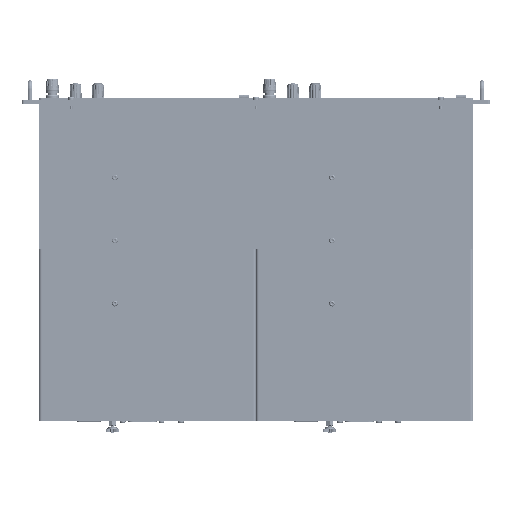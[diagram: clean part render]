
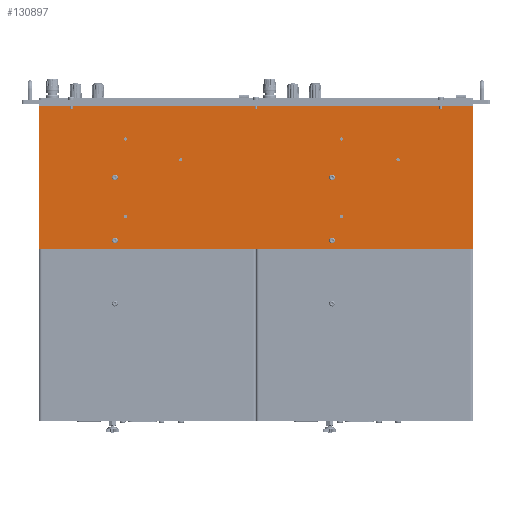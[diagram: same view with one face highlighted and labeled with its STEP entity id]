
A CAD part, left-side view. The second image highlights one B-rep face of the part: STEP entity #130897.
In plain terms, the highlighted planar face has unit normal (-1, 0, 0).
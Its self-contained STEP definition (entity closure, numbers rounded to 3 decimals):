
#5317=FACE_BOUND('',#45304,.T.);
#5318=FACE_BOUND('',#45305,.T.);
#5319=FACE_BOUND('',#45306,.T.);
#5320=FACE_BOUND('',#45307,.T.);
#5321=FACE_BOUND('',#45308,.T.);
#5322=FACE_BOUND('',#45309,.T.);
#5323=FACE_BOUND('',#45310,.T.);
#5324=FACE_BOUND('',#45311,.T.);
#5325=FACE_BOUND('',#45312,.T.);
#5326=FACE_BOUND('',#45313,.T.);
#14469=LINE('',#244231,#23891);
#14474=LINE('',#244241,#23896);
#14479=LINE('',#244274,#23901);
#14481=LINE('',#244280,#23903);
#23891=VECTOR('',#173593,10.);
#23896=VECTOR('',#173600,10.);
#23901=VECTOR('',#173633,10.);
#23903=VECTOR('',#173639,10.);
#28088=PLANE('',#142148);
#37222=FACE_OUTER_BOUND('',#45303,.T.);
#45303=EDGE_LOOP('',(#115616,#115617,#115618,#115619));
#45304=EDGE_LOOP('',(#115620));
#45305=EDGE_LOOP('',(#115621));
#45306=EDGE_LOOP('',(#115622));
#45307=EDGE_LOOP('',(#115623));
#45308=EDGE_LOOP('',(#115624,#115625));
#45309=EDGE_LOOP('',(#115626,#115627));
#45310=EDGE_LOOP('',(#115628,#115629));
#45311=EDGE_LOOP('',(#115630,#115631));
#45312=EDGE_LOOP('',(#115632,#115633));
#45313=EDGE_LOOP('',(#115634,#115635));
#50323=CIRCLE('',#141782,3.);
#50341=CIRCLE('',#141826,3.);
#50433=CIRCLE('',#142054,3.);
#50451=CIRCLE('',#142098,3.);
#50469=CIRCLE('',#142131,1.75);
#50470=CIRCLE('',#142132,1.75);
#50471=CIRCLE('',#142134,1.75);
#50472=CIRCLE('',#142135,1.75);
#50473=CIRCLE('',#142137,1.75);
#50474=CIRCLE('',#142138,1.75);
#50475=CIRCLE('',#142140,1.75);
#50476=CIRCLE('',#142141,1.75);
#50477=CIRCLE('',#142143,1.75);
#50478=CIRCLE('',#142144,1.75);
#50479=CIRCLE('',#142146,1.75);
#50480=CIRCLE('',#142147,1.75);
#61704=VERTEX_POINT('',#243226);
#61739=VERTEX_POINT('',#243369);
#61904=VERTEX_POINT('',#244079);
#61939=VERTEX_POINT('',#244222);
#61941=VERTEX_POINT('',#244229);
#61942=VERTEX_POINT('',#244230);
#61946=VERTEX_POINT('',#244239);
#61960=VERTEX_POINT('',#244272);
#61989=VERTEX_POINT('',#244351);
#61990=VERTEX_POINT('',#244352);
#61991=VERTEX_POINT('',#244357);
#61992=VERTEX_POINT('',#244358);
#61993=VERTEX_POINT('',#244363);
#61994=VERTEX_POINT('',#244364);
#61995=VERTEX_POINT('',#244369);
#61996=VERTEX_POINT('',#244370);
#61997=VERTEX_POINT('',#244375);
#61998=VERTEX_POINT('',#244376);
#61999=VERTEX_POINT('',#244381);
#62000=VERTEX_POINT('',#244382);
#79434=EDGE_CURVE('',#61704,#61704,#50323,.T.);
#79492=EDGE_CURVE('',#61739,#61739,#50341,.T.);
#79781=EDGE_CURVE('',#61904,#61904,#50433,.T.);
#79839=EDGE_CURVE('',#61939,#61939,#50451,.T.);
#79842=EDGE_CURVE('',#61941,#61942,#14469,.T.);
#79847=EDGE_CURVE('',#61946,#61941,#14474,.T.);
#79864=EDGE_CURVE('',#61942,#61960,#14479,.T.);
#79867=EDGE_CURVE('',#61946,#61960,#14481,.T.);
#79903=EDGE_CURVE('',#61989,#61990,#50469,.T.);
#79904=EDGE_CURVE('',#61990,#61989,#50470,.T.);
#79906=EDGE_CURVE('',#61991,#61992,#50471,.T.);
#79907=EDGE_CURVE('',#61992,#61991,#50472,.T.);
#79909=EDGE_CURVE('',#61993,#61994,#50473,.T.);
#79910=EDGE_CURVE('',#61994,#61993,#50474,.T.);
#79912=EDGE_CURVE('',#61995,#61996,#50475,.T.);
#79913=EDGE_CURVE('',#61996,#61995,#50476,.T.);
#79915=EDGE_CURVE('',#61997,#61998,#50477,.T.);
#79916=EDGE_CURVE('',#61998,#61997,#50478,.T.);
#79918=EDGE_CURVE('',#61999,#62000,#50479,.T.);
#79919=EDGE_CURVE('',#62000,#61999,#50480,.T.);
#115616=ORIENTED_EDGE('',*,*,#79867,.T.);
#115617=ORIENTED_EDGE('',*,*,#79864,.F.);
#115618=ORIENTED_EDGE('',*,*,#79842,.F.);
#115619=ORIENTED_EDGE('',*,*,#79847,.F.);
#115620=ORIENTED_EDGE('',*,*,#79434,.T.);
#115621=ORIENTED_EDGE('',*,*,#79492,.T.);
#115622=ORIENTED_EDGE('',*,*,#79781,.F.);
#115623=ORIENTED_EDGE('',*,*,#79839,.F.);
#115624=ORIENTED_EDGE('',*,*,#79918,.T.);
#115625=ORIENTED_EDGE('',*,*,#79919,.T.);
#115626=ORIENTED_EDGE('',*,*,#79915,.T.);
#115627=ORIENTED_EDGE('',*,*,#79916,.T.);
#115628=ORIENTED_EDGE('',*,*,#79912,.T.);
#115629=ORIENTED_EDGE('',*,*,#79913,.T.);
#115630=ORIENTED_EDGE('',*,*,#79909,.T.);
#115631=ORIENTED_EDGE('',*,*,#79910,.T.);
#115632=ORIENTED_EDGE('',*,*,#79906,.T.);
#115633=ORIENTED_EDGE('',*,*,#79907,.T.);
#115634=ORIENTED_EDGE('',*,*,#79903,.T.);
#115635=ORIENTED_EDGE('',*,*,#79904,.T.);
#130897=ADVANCED_FACE('',(#37222,#5317,#5318,#5319,#5320,#5321,#5322,#5323,
#5324,#5325,#5326),#28088,.T.);
#141782=AXIS2_PLACEMENT_3D('',#243227,#172759,#172760);
#141826=AXIS2_PLACEMENT_3D('',#243370,#172875,#172876);
#142054=AXIS2_PLACEMENT_3D('',#244080,#173468,#173469);
#142098=AXIS2_PLACEMENT_3D('',#244223,#173584,#173585);
#142131=AXIS2_PLACEMENT_3D('',#244353,#173696,#173697);
#142132=AXIS2_PLACEMENT_3D('',#244354,#173698,#173699);
#142134=AXIS2_PLACEMENT_3D('',#244359,#173703,#173704);
#142135=AXIS2_PLACEMENT_3D('',#244360,#173705,#173706);
#142137=AXIS2_PLACEMENT_3D('',#244365,#173710,#173711);
#142138=AXIS2_PLACEMENT_3D('',#244366,#173712,#173713);
#142140=AXIS2_PLACEMENT_3D('',#244371,#173717,#173718);
#142141=AXIS2_PLACEMENT_3D('',#244372,#173719,#173720);
#142143=AXIS2_PLACEMENT_3D('',#244377,#173724,#173725);
#142144=AXIS2_PLACEMENT_3D('',#244378,#173726,#173727);
#142146=AXIS2_PLACEMENT_3D('',#244383,#173731,#173732);
#142147=AXIS2_PLACEMENT_3D('',#244384,#173733,#173734);
#142148=AXIS2_PLACEMENT_3D('',#244386,#173736,#173737);
#172759=DIRECTION('center_axis',(1.,0.,0.));
#172760=DIRECTION('ref_axis',(0.,1.,0.));
#172875=DIRECTION('center_axis',(1.,0.,0.));
#172876=DIRECTION('ref_axis',(0.,1.,0.));
#173468=DIRECTION('center_axis',(-1.,0.,0.));
#173469=DIRECTION('ref_axis',(0.,1.,0.));
#173584=DIRECTION('center_axis',(-1.,0.,0.));
#173585=DIRECTION('ref_axis',(0.,1.,0.));
#173593=DIRECTION('',(0.,1.,0.));
#173600=DIRECTION('',(0.,0.,-1.));
#173633=DIRECTION('',(0.,0.,1.));
#173639=DIRECTION('',(0.,1.,0.));
#173696=DIRECTION('center_axis',(1.,0.,0.));
#173697=DIRECTION('ref_axis',(0.,1.,0.));
#173698=DIRECTION('center_axis',(1.,0.,0.));
#173699=DIRECTION('ref_axis',(0.,1.,0.));
#173703=DIRECTION('center_axis',(1.,0.,0.));
#173704=DIRECTION('ref_axis',(0.,1.,0.));
#173705=DIRECTION('center_axis',(1.,0.,0.));
#173706=DIRECTION('ref_axis',(0.,1.,0.));
#173710=DIRECTION('center_axis',(1.,0.,0.));
#173711=DIRECTION('ref_axis',(0.,1.,0.));
#173712=DIRECTION('center_axis',(1.,0.,0.));
#173713=DIRECTION('ref_axis',(0.,1.,0.));
#173717=DIRECTION('center_axis',(1.,0.,0.));
#173718=DIRECTION('ref_axis',(0.,1.,0.));
#173719=DIRECTION('center_axis',(1.,0.,0.));
#173720=DIRECTION('ref_axis',(0.,1.,0.));
#173724=DIRECTION('center_axis',(1.,0.,0.));
#173725=DIRECTION('ref_axis',(0.,1.,0.));
#173726=DIRECTION('center_axis',(1.,0.,0.));
#173727=DIRECTION('ref_axis',(0.,1.,0.));
#173731=DIRECTION('center_axis',(1.,0.,0.));
#173732=DIRECTION('ref_axis',(0.,1.,0.));
#173733=DIRECTION('center_axis',(1.,0.,0.));
#173734=DIRECTION('ref_axis',(0.,1.,0.));
#173736=DIRECTION('center_axis',(-1.,0.,0.));
#173737=DIRECTION('ref_axis',(0.,1.,0.));
#243226=CARTESIAN_POINT('',(-28.55,142.5,-141.25));
#243227=CARTESIAN_POINT('Origin',(-28.55,145.5,-141.25));
#243369=CARTESIAN_POINT('',(-28.55,142.5,-76.25));
#243370=CARTESIAN_POINT('Origin',(-28.55,145.5,-76.25));
#244079=CARTESIAN_POINT('',(-28.55,-81.5,-141.25));
#244080=CARTESIAN_POINT('Origin',(-28.55,-78.5,-141.25));
#244222=CARTESIAN_POINT('',(-28.55,-81.5,-76.25));
#244223=CARTESIAN_POINT('Origin',(-28.55,-78.5,-76.25));
#244229=CARTESIAN_POINT('',(-28.55,-224.,-150.));
#244230=CARTESIAN_POINT('',(-28.55,224.,-150.));
#244231=CARTESIAN_POINT('',(-28.55,-224.,-150.));
#244239=CARTESIAN_POINT('',(-28.55,-224.,-3.));
#244241=CARTESIAN_POINT('',(-28.55,-224.,0.));
#244272=CARTESIAN_POINT('',(-28.55,224.,-3.));
#244274=CARTESIAN_POINT('',(-28.55,224.,-150.));
#244280=CARTESIAN_POINT('',(-28.55,112.,-3.));
#244351=CARTESIAN_POINT('',(-28.55,136.25,-36.5));
#244352=CARTESIAN_POINT('',(-28.55,132.75,-36.5));
#244353=CARTESIAN_POINT('Origin',(-28.55,134.5,-36.5));
#244354=CARTESIAN_POINT('Origin',(-28.55,134.5,-36.5));
#244357=CARTESIAN_POINT('',(-28.55,-86.25,-36.5));
#244358=CARTESIAN_POINT('',(-28.55,-89.75,-36.5));
#244359=CARTESIAN_POINT('Origin',(-28.55,-88.,-36.5));
#244360=CARTESIAN_POINT('Origin',(-28.55,-88.,-36.5));
#244363=CARTESIAN_POINT('',(-28.55,-144.75,-58.));
#244364=CARTESIAN_POINT('',(-28.55,-148.25,-58.));
#244365=CARTESIAN_POINT('Origin',(-28.55,-146.5,-58.));
#244366=CARTESIAN_POINT('Origin',(-28.55,-146.5,-58.));
#244369=CARTESIAN_POINT('',(-28.55,-86.25,-116.5));
#244370=CARTESIAN_POINT('',(-28.55,-89.75,-116.5));
#244371=CARTESIAN_POINT('Origin',(-28.55,-88.,-116.5));
#244372=CARTESIAN_POINT('Origin',(-28.55,-88.,-116.5));
#244375=CARTESIAN_POINT('',(-28.55,136.25,-116.5));
#244376=CARTESIAN_POINT('',(-28.55,132.75,-116.5));
#244377=CARTESIAN_POINT('Origin',(-28.55,134.5,-116.5));
#244378=CARTESIAN_POINT('Origin',(-28.55,134.5,-116.5));
#244381=CARTESIAN_POINT('',(-28.55,79.25,-58.));
#244382=CARTESIAN_POINT('',(-28.55,75.75,-58.));
#244383=CARTESIAN_POINT('Origin',(-28.55,77.5,-58.));
#244384=CARTESIAN_POINT('Origin',(-28.55,77.5,-58.));
#244386=CARTESIAN_POINT('Origin',(-28.55,0.,
-75.));
